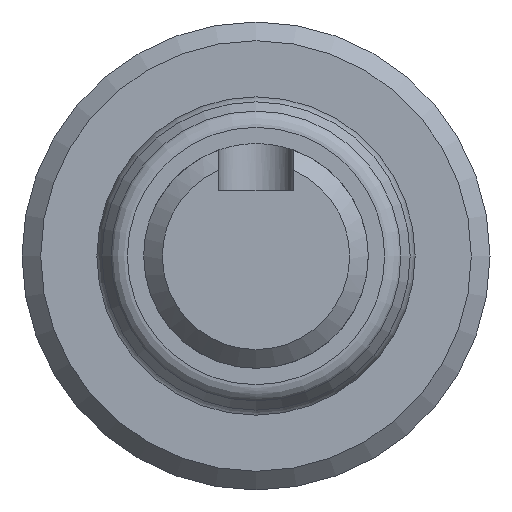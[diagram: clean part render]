
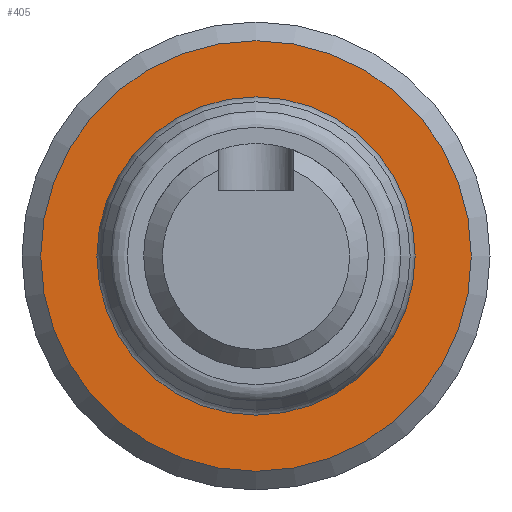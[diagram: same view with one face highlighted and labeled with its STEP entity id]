
A CAD part, left-side view. The second image highlights one B-rep face of the part: STEP entity #405.
In plain terms, the highlighted planar face has unit normal (-1, 0, 0).
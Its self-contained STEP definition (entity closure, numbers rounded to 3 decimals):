
#24=FACE_BOUND('',#133,.T.);
#28=PLANE('',#466);
#106=FACE_OUTER_BOUND('',#132,.T.);
#132=EDGE_LOOP('',(#307));
#133=EDGE_LOOP('',(#308));
#161=CIRCLE('',#457,8.5);
#165=CIRCLE('',#464,11.5);
#186=VERTEX_POINT('',#645);
#189=VERTEX_POINT('',#656);
#229=EDGE_CURVE('',#186,#186,#161,.T.);
#233=EDGE_CURVE('',#189,#189,#165,.T.);
#307=ORIENTED_EDGE('',*,*,#233,.F.);
#308=ORIENTED_EDGE('',*,*,#229,.F.);
#405=ADVANCED_FACE('',(#106,#24),#28,.T.);
#457=AXIS2_PLACEMENT_3D('',#647,#522,#523);
#464=AXIS2_PLACEMENT_3D('',#657,#536,#537);
#466=AXIS2_PLACEMENT_3D('',#661,#541,#542);
#522=DIRECTION('center_axis',(-1.,0.,0.));
#523=DIRECTION('ref_axis',(0.,-1.,0.));
#536=DIRECTION('center_axis',(1.,0.,0.));
#537=DIRECTION('ref_axis',(0.,-1.,0.));
#541=DIRECTION('center_axis',(-1.,0.,0.));
#542=DIRECTION('ref_axis',(0.,0.,1.));
#645=CARTESIAN_POINT('',(-49.5,8.5,0.));
#647=CARTESIAN_POINT('Origin',(-49.5,0.,0.));
#656=CARTESIAN_POINT('',(-49.5,11.5,0.));
#657=CARTESIAN_POINT('Origin',(-49.5,0.,0.));
#661=CARTESIAN_POINT('Origin',(-49.5,0.,0.));
